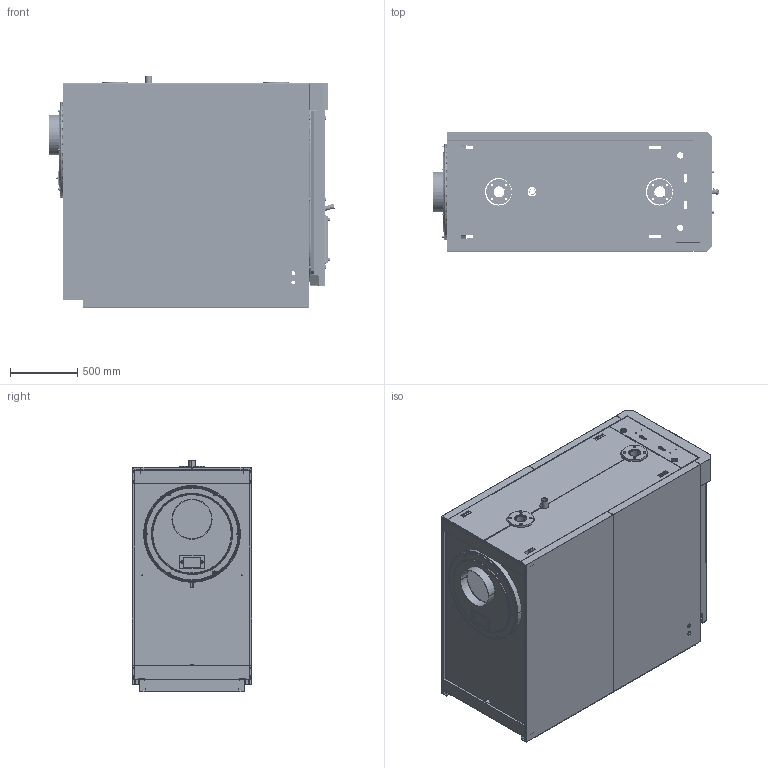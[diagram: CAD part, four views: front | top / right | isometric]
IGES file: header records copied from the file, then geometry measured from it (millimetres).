
Start section: START RECORD GO HERE.
Global section: file name: 20033210+Pannellatura x 3D.igs; native system: DASSAULT SYSTEMES CATIA V5 R20 - www.3ds.com; preprocessor: CATIA Version 5 Release 20 SP 6 ; author: Riello S.p.A.; organization: RIELLO-IT; date: 20170612.135611; units: millimetre
Bounding box: 2130.07 x 890 x 1730 mm (x, y, z)
Surface area: 32838052.6 mm2 (no closed solid volume)
Topology: 0 solids, 0 shells, 6215 faces, 30156 edges, 30123 vertices
Faces by surface type: plane 3473, revolution 2612, bspline 130
